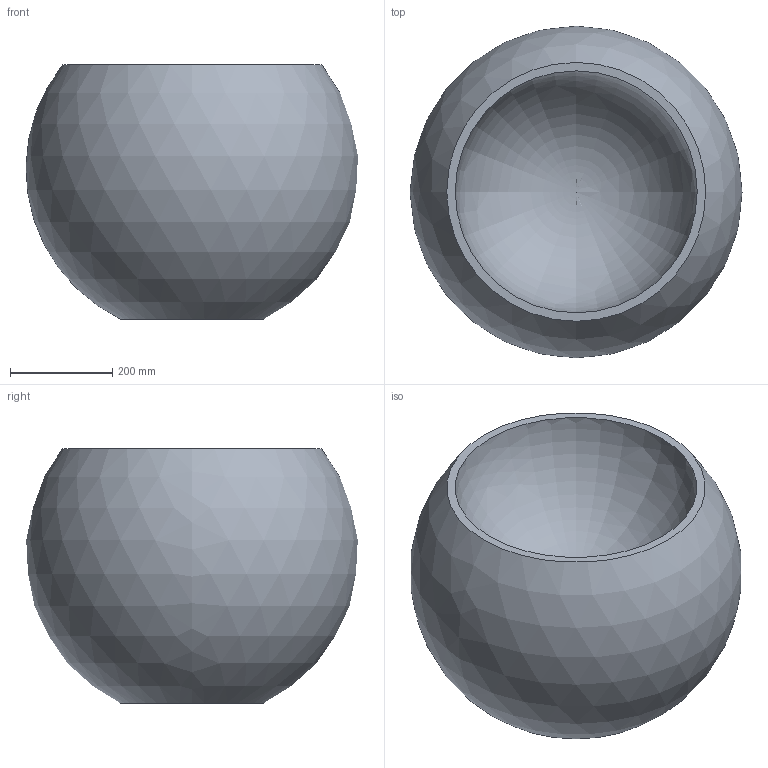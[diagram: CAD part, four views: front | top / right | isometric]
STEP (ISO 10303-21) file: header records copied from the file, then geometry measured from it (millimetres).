
FILE_DESCRIPTION(/* description */ (''),/* implementation_level */ '2;1');
FILE_NAME(/* name */ 'C:/Users/LukasGröber/GMS Cloud/Groeber Mannheim Lichtwerke - Dokumente/Marketing/Produkte/3D Daten/Flora/Flora 50.step',/* time_stamp */ '2022-07-08T08:32:26+02:00',/* author */ (''),/* organization */ (''),/* preprocessor_version */ 'ST-DEVELOPER v19',/* originating_system */ 'Autodesk Translation Framework v11.7.0.108',/* authorisation */ '');
FILE_SCHEMA (('AUTOMOTIVE_DESIGN { 1 0 10303 214 3 1 1 }'));
Length unit declared in the file: millimetre
Products named in the file (1): Flora 50 (Modell)
Bounding box: 648.97 x 648.1 x 497.53 mm (x, y, z)
Volume: 105496181.3 mm3; surface area: 1430716.9 mm2
Topology: 1 solids, 1 shells, 6 faces, 13 edges, 8 vertices
Faces by surface type: bspline 4, sphere 1, plane 1
Entity records: 722 total; most frequent: CARTESIAN_POINT 578, ORIENTED_EDGE 22, DIRECTION 20, EDGE_CURVE 11, AXIS2_PLACEMENT_3D 10, VERTEX_POINT 8, EDGE_LOOP 7, CIRCLE 7
